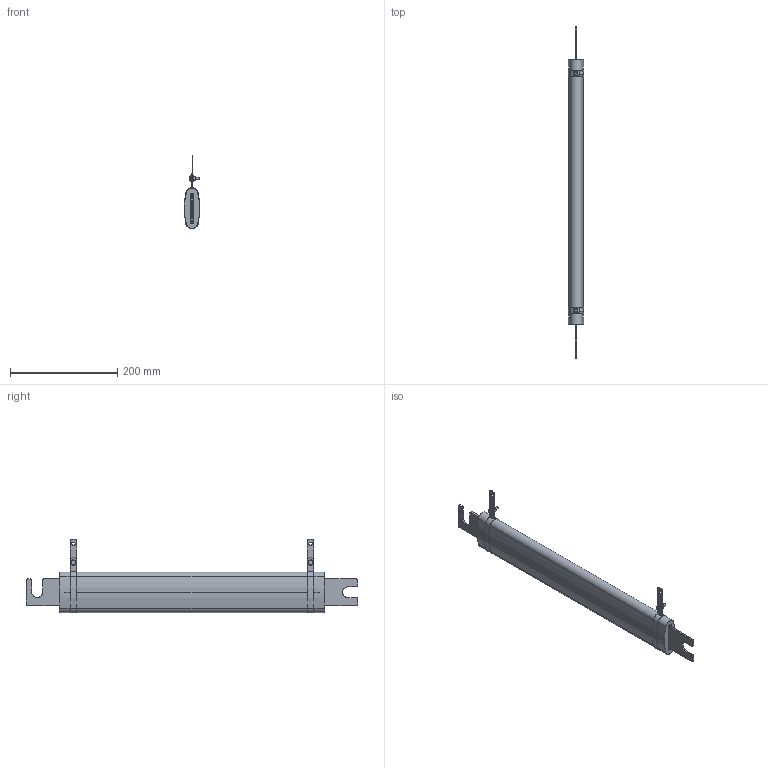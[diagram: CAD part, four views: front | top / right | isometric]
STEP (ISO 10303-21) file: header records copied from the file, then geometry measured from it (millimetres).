
FILE_DESCRIPTION(/* description */ (''),/* implementation_level */ '2;1');
FILE_NAME(/* name */ 'C:\_Vault\Dati\CATALOGO\RCE\RCE 300-1800\CE01K5.stp',/* time_stamp */ '2014-01-22T16:00:13+01:00',/* author */ ('stefano'),/* organization */ (''),/* preprocessor_version */ 'ST-DEVELOPER v15.2',/* originating_system */ 'Autodesk Inventor 2014',/* authorisation */ '');
FILE_SCHEMA (('AUTOMOTIVE_DESIGN { 1 0 10303 214 3 1 1 }'));
Length unit declared in the file: millimetre
Products named in the file (1): CE01K5
Bounding box: 29.17 x 620 x 137.95 mm (x, y, z)
Volume: 736021.1 mm3; surface area: 315177.1 mm2
Topology: 5 solids, 7 shells, 262 faces, 648 edges, 424 vertices
Faces by surface type: plane 140, cylinder 102, cone 20
Full cylindrical faces by diameter (mm): 3 x2, 5 x4, 5.3 x4, 6.5 x6, 6.88 x2, 10 x4
Entity records: 7951 total; most frequent: CARTESIAN_POINT 1393, DIRECTION 1344, ORIENTED_EDGE 1256, EDGE_CURVE 616, AXIS2_PLACEMENT_3D 513, VERTEX_POINT 418, EDGE_LOOP 336, LINE 318
